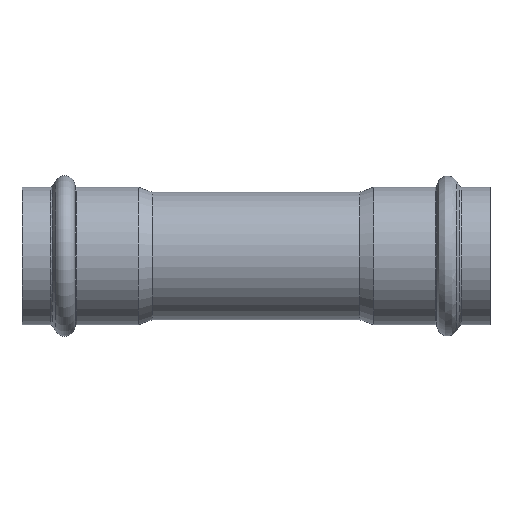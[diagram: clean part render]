
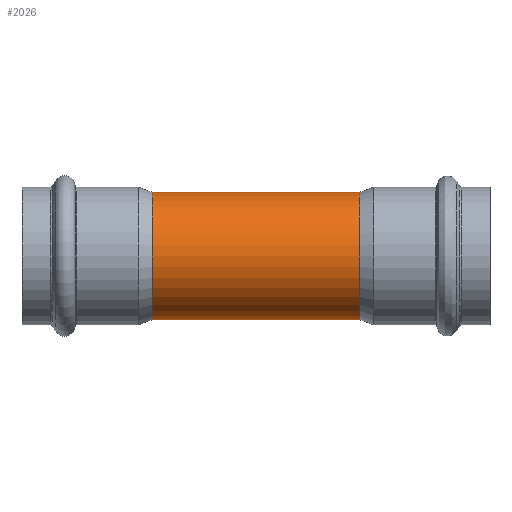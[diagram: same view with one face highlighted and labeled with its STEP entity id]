
A CAD part, front view. The second image highlights one B-rep face of the part: STEP entity #2026.
In plain terms, the highlighted cylindrical face has radius 21 mm (diameter 42 mm), a full revolution.
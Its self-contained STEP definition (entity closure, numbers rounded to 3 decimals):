
#1853=CARTESIAN_POINT('',(0.,17.601,-11.455));
#1854=VERTEX_POINT('',#1853);
#1919=CARTESIAN_POINT('',(0.,17.601,-11.455));
#1920=CARTESIAN_POINT('',(-0.914,17.601,-11.454));
#1921=CARTESIAN_POINT('',(-2.51,17.717,-11.28));
#1922=CARTESIAN_POINT('',(-4.238,18.047,-10.744));
#1923=CARTESIAN_POINT('',(-5.454,18.348,-10.218));
#1924=CARTESIAN_POINT('',(-6.424,18.629,-9.703));
#1925=CARTESIAN_POINT('',(-7.509,18.997,-8.965));
#1926=CARTESIAN_POINT('',(-8.499,19.375,-8.119));
#1927=CARTESIAN_POINT('',(-9.475,19.783,-7.081));
#1928=CARTESIAN_POINT('',(-10.403,20.204,-5.794));
#1929=CARTESIAN_POINT('',(-11.189,20.586,-4.257));
#1930=CARTESIAN_POINT('',(-11.734,20.862,-2.602));
#1931=CARTESIAN_POINT('',(-12.012,21.006,-0.876));
#1932=CARTESIAN_POINT('',(-12.011,21.006,0.585));
#1933=CARTESIAN_POINT('',(-11.873,20.934,1.739));
#1934=CARTESIAN_POINT('',(-11.642,20.815,2.88));
#1935=CARTESIAN_POINT('',(-11.191,20.586,4.253));
#1936=CARTESIAN_POINT('',(-10.53,20.266,5.545));
#1937=CARTESIAN_POINT('',(-9.731,19.898,6.744));
#1938=CARTESIAN_POINT('',(-8.996,19.579,7.616));
#1939=CARTESIAN_POINT('',(-7.955,19.163,8.608));
#1940=CARTESIAN_POINT('',(-6.8,18.745,9.487));
#1941=CARTESIAN_POINT('',(-5.273,18.287,10.336));
#1942=CARTESIAN_POINT('',(-3.595,17.908,10.974));
#1943=CARTESIAN_POINT('',(-1.826,17.659,11.366));
#1944=CARTESIAN_POINT('',(0.004,17.572,11.499));
#1945=CARTESIAN_POINT('',(1.831,17.66,11.365));
#1946=CARTESIAN_POINT('',(3.308,17.868,11.037));
#1947=CARTESIAN_POINT('',(4.441,18.099,10.653));
#1948=CARTESIAN_POINT('',(5.526,18.363,10.195));
#1949=CARTESIAN_POINT('',(6.811,18.748,9.482));
#1950=CARTESIAN_POINT('',(8.196,19.251,8.422));
#1951=CARTESIAN_POINT('',(9.392,19.745,7.196));
#1952=CARTESIAN_POINT('',(10.292,20.154,5.947));
#1953=CARTESIAN_POINT('',(11.114,20.548,4.436));
#1954=CARTESIAN_POINT('',(11.704,20.846,2.791));
#1955=CARTESIAN_POINT('',(12.012,21.006,0.873));
#1956=CARTESIAN_POINT('',(12.012,21.006,-0.878));
#1957=CARTESIAN_POINT('',(11.732,20.861,-2.607));
#1958=CARTESIAN_POINT('',(11.189,20.586,-4.257));
#1959=CARTESIAN_POINT('',(10.528,20.265,-5.548));
#1960=CARTESIAN_POINT('',(9.889,19.971,-6.507));
#1961=CARTESIAN_POINT('',(9.275,19.699,-7.294));
#1962=CARTESIAN_POINT('',(8.489,19.371,-8.129));
#1963=CARTESIAN_POINT('',(7.498,18.993,-8.973));
#1964=CARTESIAN_POINT('',(6.418,18.628,-9.706));
#1965=CARTESIAN_POINT('',(5.259,18.292,-10.322));
#1966=CARTESIAN_POINT('',(4.018,18.001,-10.819));
#1967=CARTESIAN_POINT('',(2.287,17.701,-11.303));
#1968=CARTESIAN_POINT('',(0.914,17.601,-11.455));
#1969=CARTESIAN_POINT('',(0.,17.601,-11.455));
#1970=B_SPLINE_CURVE_WITH_KNOTS('',3,(#1919,#1920,#1921,#1922,#1923,#1924,#1925,#1926,#1927,#1928,#1929,#1930,#1931,#1932,#1933,#1934,#1935,#1936,#1937,#1938,#1939,#1940,#1941,#1942,#1943,#1944,#1945,#1946,#1947,#1948,#1949,#1950,#1951,#1952,#1953,#1954,#1955,#1956,#1957,#1958,#1959,#1960,#1961,#1962,#1963,#1964,#1965,#1966,#1967,#1968,#1969),.UNSPECIFIED.,.T.,.U.,(4,1,1,1,1,1,1,1,1,1,1,1,1,1,1,1,1,1,1,1,1,1,1,1,1,1,1,1,1,1,1,1,1,1,1,1,1,1,1,1,1,1,1,1,1,1,1,1,4),(-6.781,-6.539,-6.357,-6.296,-6.175,-6.054,-5.933,-5.812,-5.651,-5.489,-5.328,-5.166,-5.005,-4.924,-4.843,-4.682,-4.521,-4.44,-4.278,-4.198,-4.036,-3.875,-3.713,-3.552,-3.39,-3.229,-3.067,-2.987,-2.906,-2.745,-2.583,-2.422,-2.26,-2.153,-1.937,-1.776,-1.614,-1.453,-1.292,-1.13,-1.049,-0.969,-0.848,-0.727,-0.605,-0.484,-0.363,-0.242,0.0),.UNSPECIFIED.);
#1971=EDGE_CURVE('',#1854,#1854,#1970,.T.);
#1996=CARTESIAN_POINT('',(-17.101,0.,0.0));
#1997=DIRECTION('',(1.0,0.,0.0));
#1998=DIRECTION('',(0.0,1.0,0.0));
#1999=AXIS2_PLACEMENT_3D('',#1996,#1997,#1998);
#2000=CYLINDRICAL_SURFACE('',#1999,21.);
#2001=CARTESIAN_POINT('',(-34.202,21.,0.0));
#2002=VERTEX_POINT('',#2001);
#2003=CARTESIAN_POINT('',(-34.202,0.,0.0));
#2004=DIRECTION('',(1.0,0.0,0.0));
#2005=DIRECTION('',(0.0,1.0,0.0));
#2006=AXIS2_PLACEMENT_3D('',#2003,#2004,#2005);
#2007=CIRCLE('',#2006,21.);
#2008=EDGE_CURVE('',#2002,#2002,#2007,.T.);
#2009=ORIENTED_EDGE('',*,*,#2008,.T.);
#2010=EDGE_LOOP('',(#2009));
#2011=FACE_OUTER_BOUND('',#2010,.T.);
#2012=CARTESIAN_POINT('',(34.202,21.0,0.0));
#2013=VERTEX_POINT('',#2012);
#2014=CARTESIAN_POINT('',(34.202,0.,0.0));
#2015=DIRECTION('',(1.0,0.0,0.0));
#2016=DIRECTION('',(0.0,1.0,0.0));
#2017=AXIS2_PLACEMENT_3D('',#2014,#2015,#2016);
#2018=CIRCLE('',#2017,21.);
#2019=EDGE_CURVE('',#2013,#2013,#2018,.T.);
#2020=ORIENTED_EDGE('',*,*,#2019,.F.);
#2021=EDGE_LOOP('',(#2020));
#2022=FACE_BOUND('',#2021,.T.);
#2023=ORIENTED_EDGE('',*,*,#1971,.F.);
#2024=EDGE_LOOP('',(#2023));
#2025=FACE_BOUND('',#2024,.T.);
#2026=ADVANCED_FACE('',(#2011,#2022,#2025),#2000,.T.);
